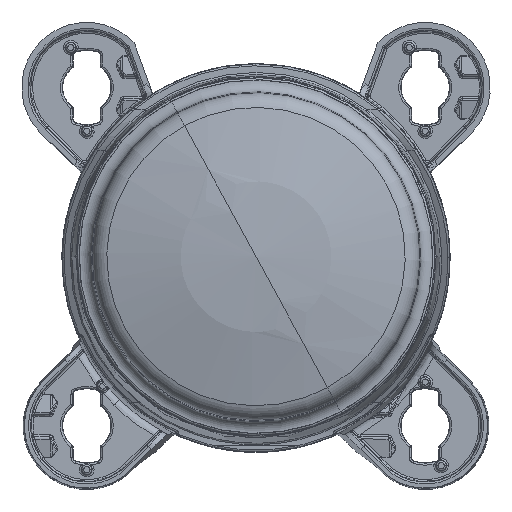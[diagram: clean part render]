
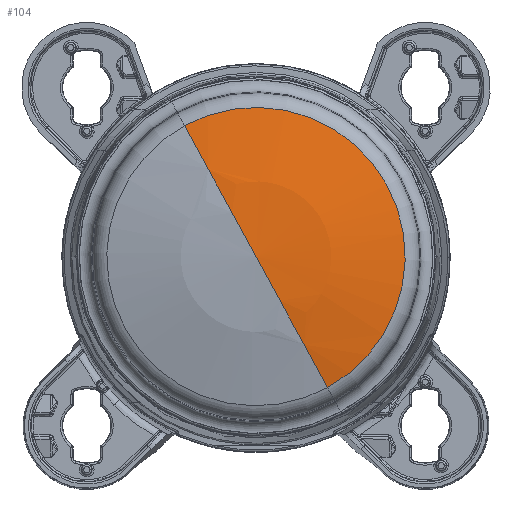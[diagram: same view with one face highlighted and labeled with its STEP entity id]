
A CAD part, left-side view. The second image highlights one B-rep face of the part: STEP entity #104.
In plain terms, the highlighted spherical face has radius 142 mm.
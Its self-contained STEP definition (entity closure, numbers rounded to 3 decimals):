
#34=AXIS2_PLACEMENT_3D('Sphere Axis2P3D',#31,#32,#33) ;
#38=AXIS2_PLACEMENT_3D('Circle Axis2P3D',#36,#37,$) ;
#47=AXIS2_PLACEMENT_3D('Circle Axis2P3D',#45,#46,$) ;
#96=AXIS2_PLACEMENT_3D('Circle Axis2P3D',#94,#95,$) ;
#31=CARTESIAN_POINT('Axis2P3D Location',(49.95,0.,0.)) ;
#36=CARTESIAN_POINT('Axis2P3D Location',(49.95,0.,0.)) ;
#40=CARTESIAN_POINT('Vertex',(-87.016,-17.965,-32.885)) ;
#42=CARTESIAN_POINT('Vertex',(-92.05,0.,0.)) ;
#45=CARTESIAN_POINT('Axis2P3D Location',(49.95,0.,0.)) ;
#49=CARTESIAN_POINT('Vertex',(-87.016,17.965,32.885)) ;
#94=CARTESIAN_POINT('Axis2P3D Location',(-87.016,0.,0.)) ;
#32=DIRECTION('Axis2P3D Direction',(-1.,0.,0.)) ;
#33=DIRECTION('Axis2P3D XDirection',(0.,0.479,0.878)) ;
#37=DIRECTION('Axis2P3D Direction',(0.,0.878,-0.479)) ;
#46=DIRECTION('Axis2P3D Direction',(0.,-0.878,0.479)) ;
#95=DIRECTION('Axis2P3D Direction',(-1.,0.,0.)) ;
#100=ORIENTED_EDGE('',*,*,#51,.T.) ;
#101=ORIENTED_EDGE('',*,*,#44,.F.) ;
#102=ORIENTED_EDGE('',*,*,#98,.T.) ;
#104=ADVANCED_FACE('Body.11',(#103),#35,.T.) ;
#39=CIRCLE('generated circle',#38,142.) ;
#48=CIRCLE('generated circle',#47,142.) ;
#97=CIRCLE('generated circle',#96,37.473) ;
#44=EDGE_CURVE('',#41,#43,#39,.T.) ;
#51=EDGE_CURVE('',#50,#43,#48,.T.) ;
#98=EDGE_CURVE('',#41,#50,#97,.T.) ;
#99=EDGE_LOOP('',(#100,#101,#102)) ;
#103=FACE_OUTER_BOUND('',#99,.T.) ;
#35=SPHERICAL_SURFACE('',#34,142.) ;
#41=VERTEX_POINT('',#40) ;
#43=VERTEX_POINT('',#42) ;
#50=VERTEX_POINT('',#49) ;
